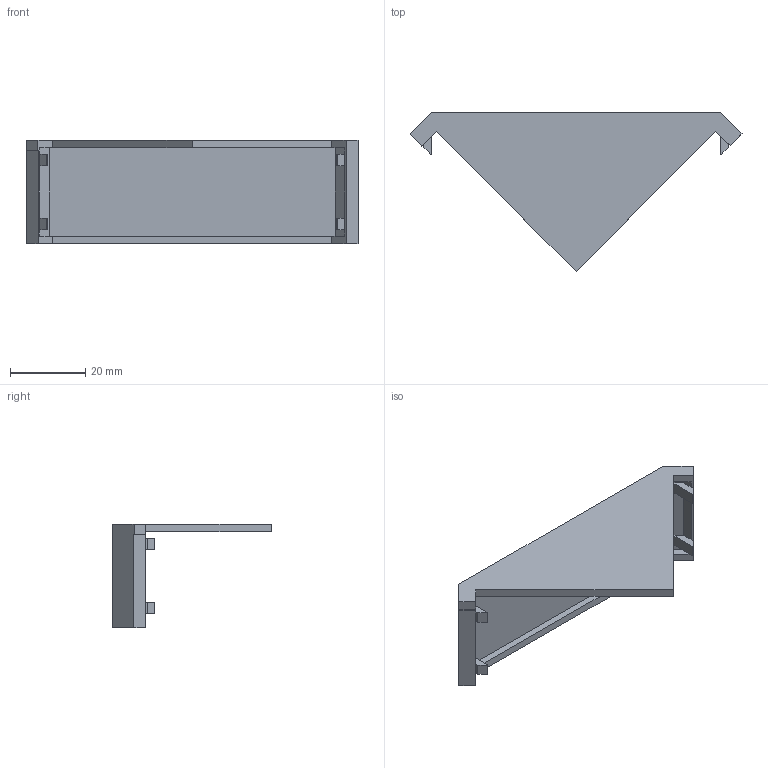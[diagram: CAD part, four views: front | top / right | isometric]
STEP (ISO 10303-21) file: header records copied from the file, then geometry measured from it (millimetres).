
FILE_DESCRIPTION (( 'STEP AP203' ), '1' );
FILE_NAME ('1055cap.STEP', '2016-04-09T14:54:02', ( '' ), ( '' ), 'SwSTEP 2.0', 'SolidWorks 2014', '' );
FILE_SCHEMA (( 'CONFIG_CONTROL_DESIGN' ));
Length unit declared in the file: millimetre
Products named in the file (1): 1055cap
Bounding box: 88.24 x 42.14 x 27.5 mm (x, y, z)
Volume: 11006.4 mm3; surface area: 9438.7 mm2
Topology: 1 solids, 1 shells, 49 faces, 133 edges, 86 vertices
Faces by surface type: plane 49
Entity records: 1580 total; most frequent: CARTESIAN_POINT 269, ORIENTED_EDGE 266, DIRECTION 233, LINE 133, VECTOR 133, EDGE_CURVE 133, VERTEX_POINT 86, AXIS2_PLACEMENT_3D 50
